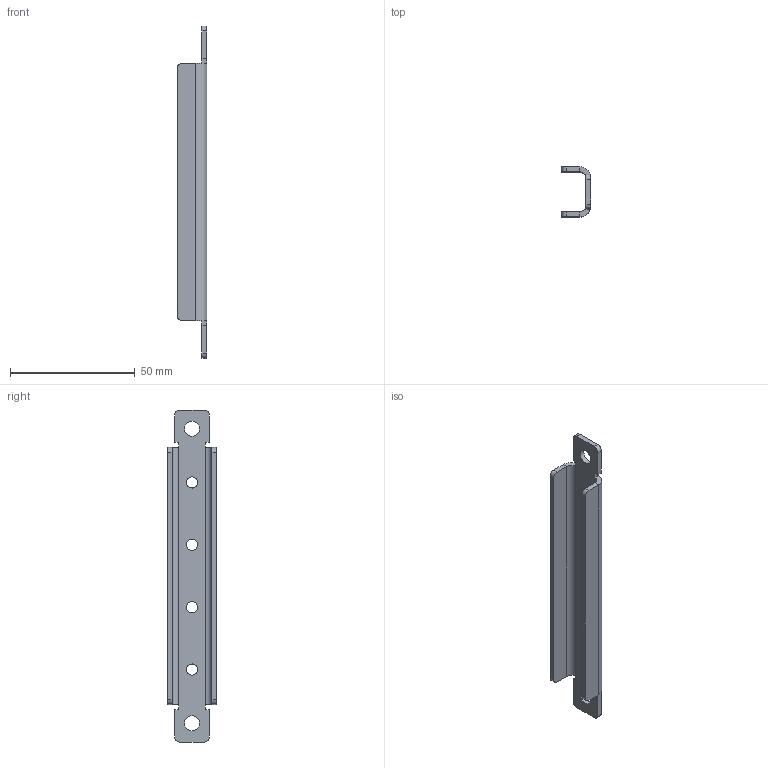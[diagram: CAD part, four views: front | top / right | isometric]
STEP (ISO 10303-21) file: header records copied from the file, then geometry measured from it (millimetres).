
FILE_DESCRIPTION(('STEP AP242'), '1');
FILE_NAME('ÌÏÄ.ÙÌÏ Ìîíòàæíàÿ ïåðåìû÷êà', '', ('UNSPECIFIED'), ('UNSPECIFIED'), 'C3D Converter', 'C3D Toolkit', '');
FILE_SCHEMA(('AP242_MANAGED_MODEL_BASED_3D_ENGINEERING_MIM_LF { 1 0 10303 442 1 1 4 }'));
Length unit declared in the file: millimetre
Products named in the file (1): МПД.ЩМП
Bounding box: 12 x 20 x 133 mm (x, y, z)
Volume: 8163.7 mm3; surface area: 9043.7 mm2
Topology: 1 solids, 1 shells, 48 faces, 122 edges, 76 vertices
Faces by surface type: plane 30, cylinder 18
Full cylindrical faces by diameter (mm): 4.5 x4, 6 x2
Entity records: 1847 total; most frequent: DIRECTION 250, CARTESIAN_POINT 241, ORIENTED_EDGE 232, EDGE_CURVE 116, AXIS2_PLACEMENT_3D 85, LINE 80, VECTOR 80, VERTEX_POINT 76
